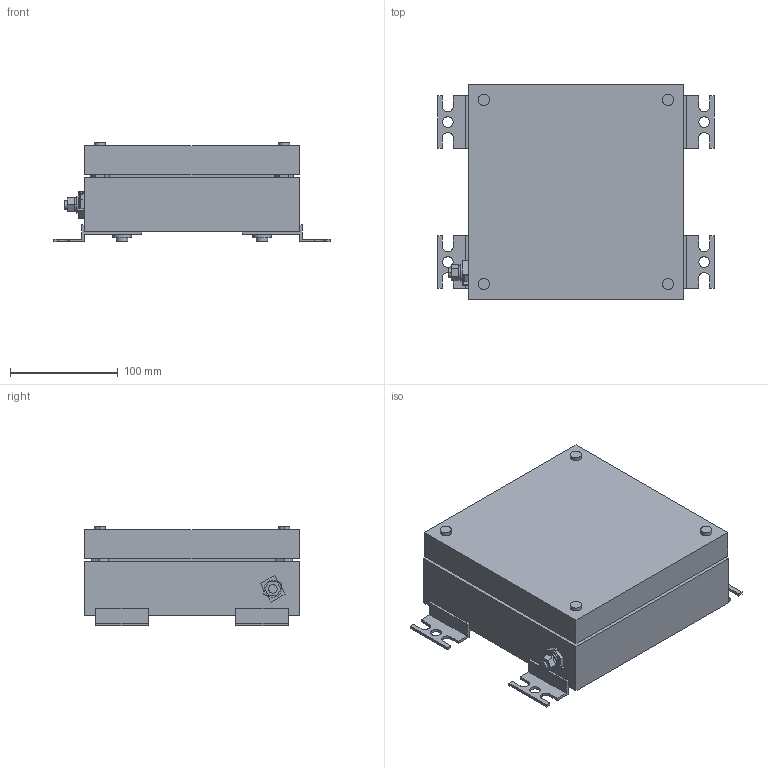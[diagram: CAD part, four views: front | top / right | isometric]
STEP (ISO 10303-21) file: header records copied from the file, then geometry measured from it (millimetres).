
FILE_DESCRIPTION(('SolidDesigner STEP Export'),'2;1');
FILE_NAME('0899007_E_S6_A_200X200X80-select.stp','2015-01-15T13:09:02',(''),(''),'Creo Elements/Direct Modeling STEP processor for AP214 (Solid Model)','Creo Elements/Direct Modeling 18.1 06-May-2012 (C) Parametric Technology GmbH','');
FILE_SCHEMA(('AUTOMOTIVE_DESIGN { 1 0 10303 214 1 1 1 1 }'));
Length unit declared in the file: millimetre
Products named in the file (4): Enclosure; Mountingplate; Lid; 0899007_E_S6_A_200X200X80-select
Assembly tree (3 placements, depth 2):
  0899007_E_S6_A_200X200X80-select
    Lid
    Mountingplate
    Enclosure
Bounding box: 257 x 200 x 92.8 mm (x, y, z)
Volume: 492012.4 mm3; surface area: 421408.3 mm2
Topology: 3 solids, 3 shells, 471 faces, 1166 edges, 774 vertices
Faces by surface type: plane 337, cylinder 134
Entity records: 16722 total; most frequent: ORIENTED_EDGE 2332, CARTESIAN_POINT 2206, DIRECTION 2012, EDGE_CURVE 1166, VECTOR 852, LINE 852, VERTEX_POINT 774, AXIS2_PLACEMENT_3D 580
